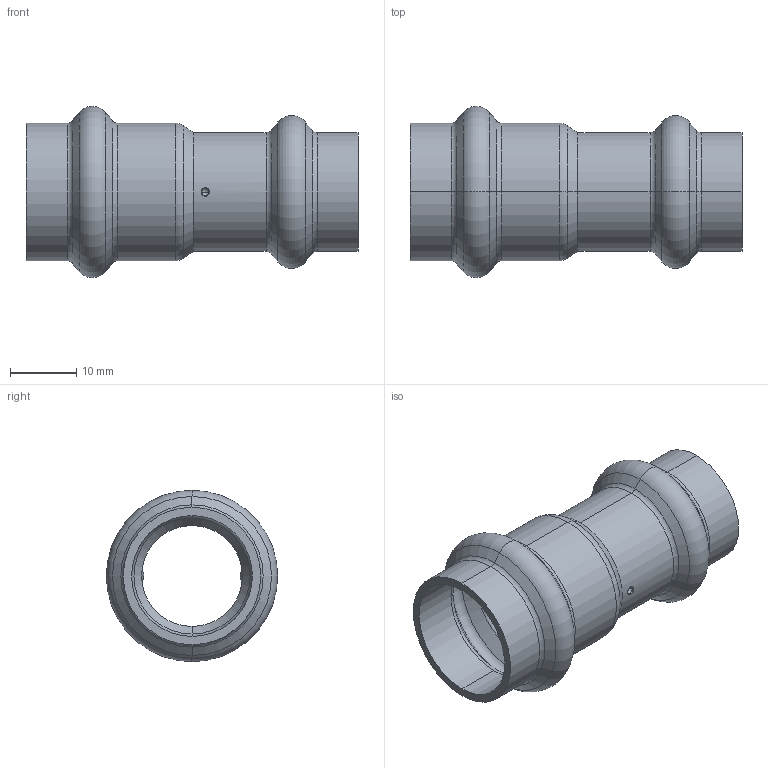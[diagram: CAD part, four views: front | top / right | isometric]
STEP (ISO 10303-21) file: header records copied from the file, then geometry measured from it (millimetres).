
FILE_DESCRIPTION (( 'STEP AP203' ), '1' );
FILE_NAME ('SP5240 18-15.STEP', '2017-04-24T08:38:00', ( '' ), ( '' ), 'SwSTEP 2.0', 'SolidWorks 2016', '' );
FILE_SCHEMA (( 'CONFIG_CONTROL_DESIGN' ));
Length unit declared in the file: millimetre
Products named in the file (1): SP5240 18-15
Bounding box: 50 x 25.8 x 25.8 mm (x, y, z)
Volume: 4215.8 mm3; surface area: 6599.4 mm2
Topology: 1 solids, 1 shells, 78 faces, 168 edges, 96 vertices
Faces by surface type: torus 28, cone 24, cylinder 16, sphere 8, plane 2
Entity records: 2297 total; most frequent: CARTESIAN_POINT 447, DIRECTION 438, ORIENTED_EDGE 336, AXIS2_PLACEMENT_3D 199, EDGE_CURVE 168, CIRCLE 120, VERTEX_POINT 96, EDGE_LOOP 84
